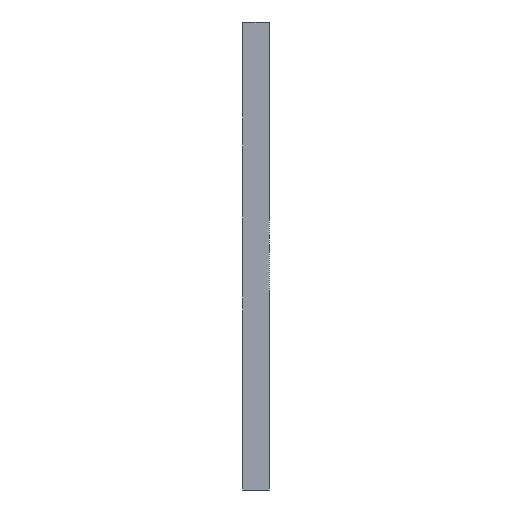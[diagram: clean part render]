
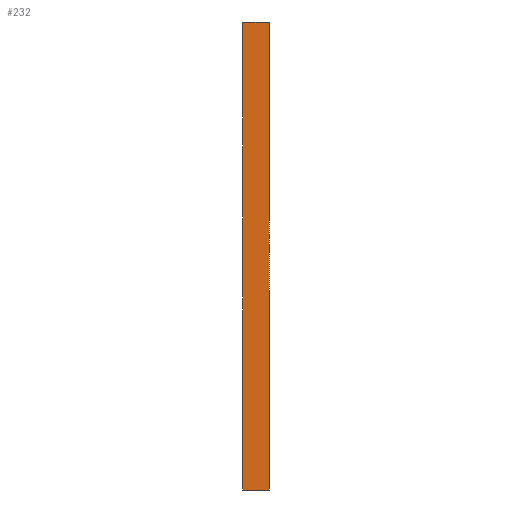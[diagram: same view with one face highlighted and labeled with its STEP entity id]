
A CAD part, left-side view. The second image highlights one B-rep face of the part: STEP entity #232.
In plain terms, the highlighted planar face has unit normal (-1, 0, 0).
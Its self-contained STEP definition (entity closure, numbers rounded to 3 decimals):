
#42 = VECTOR ( 'NONE', #301, 1000. ) ;
#80 = CARTESIAN_POINT ( 'NONE',  ( -155.5, -20., -304. ) ) ;
#113 = ORIENTED_EDGE ( 'NONE', *, *, #990, .F. ) ;
#134 = CARTESIAN_POINT ( 'NONE',  ( -155.5, -20., -304. ) ) ;
#232 = ADVANCED_FACE ( 'NONE', ( #949 ), #357, .T. ) ;
#301 = DIRECTION ( 'NONE',  ( 0., 1., 0. ) ) ;
#325 = DIRECTION ( 'NONE',  ( 0., 0., 1. ) ) ;
#337 = DIRECTION ( 'NONE',  ( -1., 0., 0. ) ) ;
#357 = PLANE ( 'NONE',  #1110 ) ;
#360 = CARTESIAN_POINT ( 'NONE',  ( -155.5, -20., 50. ) ) ;
#410 = LINE ( 'NONE', #499, #603 ) ;
#415 = DIRECTION ( 'NONE',  ( 0., 1., 0. ) ) ;
#423 = EDGE_CURVE ( 'NONE', #424, #693, #1023, .T. ) ;
#424 = VERTEX_POINT ( 'NONE', #481 ) ;
#481 = CARTESIAN_POINT ( 'NONE',  ( -155.5, -20., -304. ) ) ;
#499 = CARTESIAN_POINT ( 'NONE',  ( -155.5, -20., 50. ) ) ;
#518 = EDGE_CURVE ( 'NONE', #424, #760, #856, .T. ) ;
#603 = VECTOR ( 'NONE', #415, 1000. ) ;
#641 = VERTEX_POINT ( 'NONE', #680 ) ;
#660 = ORIENTED_EDGE ( 'NONE', *, *, #423, .F. ) ;
#680 = CARTESIAN_POINT ( 'NONE',  ( -155.5, 0., 50. ) ) ;
#693 = VERTEX_POINT ( 'NONE', #770 ) ;
#700 = CARTESIAN_POINT ( 'NONE',  ( -155.5, -20., -304. ) ) ;
#713 = EDGE_CURVE ( 'NONE', #760, #641, #410, .T. ) ;
#760 = VERTEX_POINT ( 'NONE', #360 ) ;
#767 = VECTOR ( 'NONE', #325, 1000. ) ;
#768 = VECTOR ( 'NONE', #915, 1000. ) ;
#770 = CARTESIAN_POINT ( 'NONE',  ( -155.5, 0., -304. ) ) ;
#818 = CARTESIAN_POINT ( 'NONE',  ( -155.5, 0., -304. ) ) ;
#856 = LINE ( 'NONE', #80, #767 ) ;
#886 = ORIENTED_EDGE ( 'NONE', *, *, #713, .T. ) ;
#915 = DIRECTION ( 'NONE',  ( 0., 0., 1. ) ) ;
#949 = FACE_OUTER_BOUND ( 'NONE', #1083, .T. ) ;
#990 = EDGE_CURVE ( 'NONE', #693, #641, #993, .T. ) ;
#993 = LINE ( 'NONE', #818, #768 ) ;
#1001 = ORIENTED_EDGE ( 'NONE', *, *, #518, .T. ) ;
#1023 = LINE ( 'NONE', #134, #42 ) ;
#1050 = DIRECTION ( 'NONE',  ( 0., 0., 1. ) ) ;
#1083 = EDGE_LOOP ( 'NONE', ( #113, #660, #1001, #886 ) ) ;
#1110 = AXIS2_PLACEMENT_3D ( 'NONE', #700, #337, #1050 ) ;
